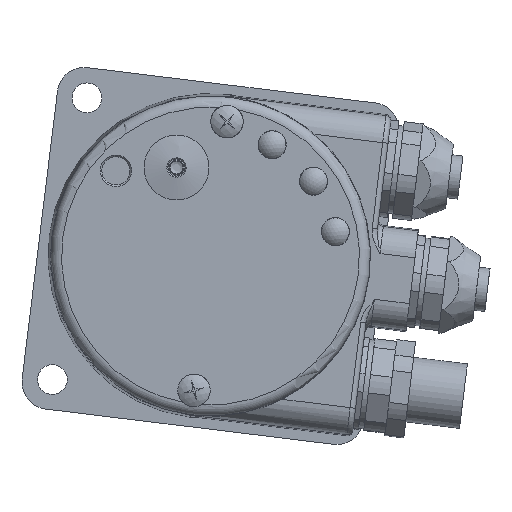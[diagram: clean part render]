
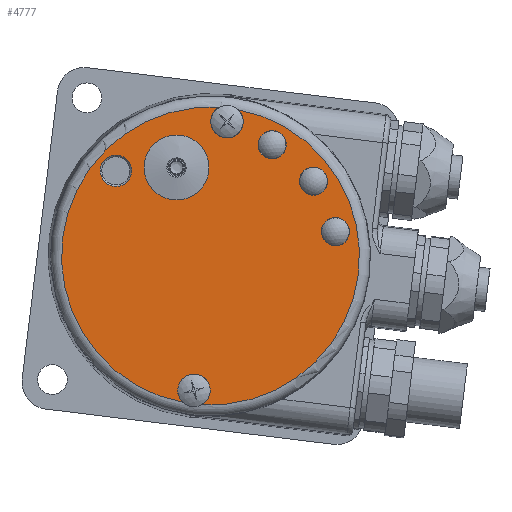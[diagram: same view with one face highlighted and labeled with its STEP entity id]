
A CAD part, left-side view. The second image highlights one B-rep face of the part: STEP entity #4777.
In plain terms, the highlighted planar face has unit normal (-1, 0, 0).
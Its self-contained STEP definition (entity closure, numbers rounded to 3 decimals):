
#257 = EDGE_LOOP ( 'NONE', ( #4259 ) ) ;
#407 = EDGE_CURVE ( 'NONE', #15092, #15092, #15657, .T. ) ;
#545 = DIRECTION ( 'NONE',  ( -1., 0., 0. ) ) ;
#767 = DIRECTION ( 'NONE',  ( -1., 0., 0. ) ) ;
#1265 = FACE_BOUND ( 'NONE', #6513, .T. ) ;
#1273 = ORIENTED_EDGE ( 'NONE', *, *, #9118, .T. ) ;
#1330 = CARTESIAN_POINT ( 'NONE',  ( -57., 17.464, 15.725 ) ) ;
#1619 = VERTEX_POINT ( 'NONE', #16320 ) ;
#1686 = FACE_BOUND ( 'NONE', #10390, .T. ) ;
#2107 = EDGE_CURVE ( 'NONE', #7338, #7338, #10660, .T. ) ;
#2162 = DIRECTION ( 'NONE',  ( -1., 0., 0. ) ) ;
#2200 = AXIS2_PLACEMENT_3D ( 'NONE', #4154, #13316, #5468 ) ;
#2458 = CARTESIAN_POINT ( 'NONE',  ( -57., -23.068, 4.484 ) ) ;
#2592 = EDGE_LOOP ( 'NONE', ( #1273 ) ) ;
#2650 = DIRECTION ( 'NONE',  ( 0., -0.122, 0.993 ) ) ;
#2849 = VERTEX_POINT ( 'NONE', #14945 ) ;
#3057 = AXIS2_PLACEMENT_3D ( 'NONE', #12906, #5060, #14220 ) ;
#3192 = AXIS2_PLACEMENT_3D ( 'NONE', #2458, #11578, #3751 ) ;
#3311 = VERTEX_POINT ( 'NONE', #9602 ) ;
#3332 = EDGE_CURVE ( 'NONE', #16387, #9711, #11807, .T. ) ;
#3694 = DIRECTION ( 'NONE',  ( -1., 0., 0. ) ) ;
#3701 = ORIENTED_EDGE ( 'NONE', *, *, #6916, .T. ) ;
#3751 = DIRECTION ( 'NONE',  ( 0., -0.122, 0.993 ) ) ;
#3923 = CIRCLE ( 'NONE', #3057, 2.6 ) ;
#4154 = CARTESIAN_POINT ( 'NONE',  ( -57., 0., 0. ) ) ;
#4173 = CARTESIAN_POINT ( 'NONE',  ( -57., -23.385, 7.065 ) ) ;
#4193 = CARTESIAN_POINT ( 'NONE',  ( -57., -1.638, 27.462 ) ) ;
#4259 = ORIENTED_EDGE ( 'NONE', *, *, #407, .F. ) ;
#4283 = CARTESIAN_POINT ( 'NONE',  ( -57., 5.54, 22.293 ) ) ;
#4340 = CIRCLE ( 'NONE', #9271, 2.6 ) ;
#4689 = AXIS2_PLACEMENT_3D ( 'NONE', #4766, #13930, #6068 ) ;
#4734 = FACE_OUTER_BOUND ( 'NONE', #6427, .T. ) ;
#4766 = CARTESIAN_POINT ( 'NONE',  ( -57., 0., 0. ) ) ;
#4777 = ADVANCED_FACE ( 'NONE', ( #8625, #11691, #1686, #8196, #4734, #1265 ), #6705, .T. ) ;
#4953 = ORIENTED_EDGE ( 'NONE', *, *, #16630, .T. ) ;
#5060 = DIRECTION ( 'NONE',  ( -1., 0., 0. ) ) ;
#5206 = DIRECTION ( 'NONE',  ( -1., 0., 0. ) ) ;
#5286 = CIRCLE ( 'NONE', #4689, 27.511 ) ;
#5288 = ORIENTED_EDGE ( 'NONE', *, *, #3332, .F. ) ;
#5468 = DIRECTION ( 'NONE',  ( 0., -0.122, 0.993 ) ) ;
#6068 = DIRECTION ( 'NONE',  ( 0., -0.122, 0.993 ) ) ;
#6427 = EDGE_LOOP ( 'NONE', ( #10236, #3701, #5288, #4953 ) ) ;
#6452 = CIRCLE ( 'NONE', #10807, 27.511 ) ;
#6513 = EDGE_LOOP ( 'NONE', ( #10531 ) ) ;
#6705 = PLANE ( 'NONE',  #2200 ) ;
#6916 = EDGE_CURVE ( 'NONE', #3311, #9711, #6452, .T. ) ;
#7338 = VERTEX_POINT ( 'NONE', #4283 ) ;
#7514 = CARTESIAN_POINT ( 'NONE',  ( -57., 5.055, -27.043 ) ) ;
#7627 = CIRCLE ( 'NONE', #10618, 2.9 ) ;
#8013 = EDGE_CURVE ( 'NONE', #3311, #10296, #10974, .T. ) ;
#8196 = FACE_BOUND ( 'NONE', #8464, .T. ) ;
#8254 = ORIENTED_EDGE ( 'NONE', *, *, #11151, .F. ) ;
#8341 = CARTESIAN_POINT ( 'NONE',  ( -57., -3.047, 24.814 ) ) ;
#8464 = EDGE_LOOP ( 'NONE', ( #8254 ) ) ;
#8568 = CARTESIAN_POINT ( 'NONE',  ( -57., 0., 0. ) ) ;
#8625 = FACE_BOUND ( 'NONE', #2592, .T. ) ;
#8900 = CARTESIAN_POINT ( 'NONE',  ( -57., -5.055, 27.043 ) ) ;
#9118 = EDGE_CURVE ( 'NONE', #2849, #2849, #7627, .T. ) ;
#9145 = VERTEX_POINT ( 'NONE', #12732 ) ;
#9271 = AXIS2_PLACEMENT_3D ( 'NONE', #13052, #5206, #14350 ) ;
#9602 = CARTESIAN_POINT ( 'NONE',  ( -57., 1.638, -27.462 ) ) ;
#9663 = DIRECTION ( 'NONE',  ( 0., -0.122, 0.993 ) ) ;
#9711 = VERTEX_POINT ( 'NONE', #8900 ) ;
#9878 = DIRECTION ( 'NONE',  ( 0., -0.122, 0.993 ) ) ;
#9948 = CARTESIAN_POINT ( 'NONE',  ( -57., 6.271, 16.338 ) ) ;
#10236 = ORIENTED_EDGE ( 'NONE', *, *, #8013, .F. ) ;
#10296 = VERTEX_POINT ( 'NONE', #7514 ) ;
#10390 = EDGE_LOOP ( 'NONE', ( #11177 ) ) ;
#10422 = AXIS2_PLACEMENT_3D ( 'NONE', #11516, #3694, #12831 ) ;
#10465 = DIRECTION ( 'NONE',  ( 1., 0., 0. ) ) ;
#10531 = ORIENTED_EDGE ( 'NONE', *, *, #2107, .F. ) ;
#10618 = AXIS2_PLACEMENT_3D ( 'NONE', #1330, #10465, #2650 ) ;
#10660 = CIRCLE ( 'NONE', #14504, 6. ) ;
#10807 = AXIS2_PLACEMENT_3D ( 'NONE', #8568, #767, #9878 ) ;
#10974 = CIRCLE ( 'NONE', #10422, 3. ) ;
#11151 = EDGE_CURVE ( 'NONE', #1619, #1619, #4340, .T. ) ;
#11177 = ORIENTED_EDGE ( 'NONE', *, *, #16237, .F. ) ;
#11269 = DIRECTION ( 'NONE',  ( 0., -0.122, 0.993 ) ) ;
#11516 = CARTESIAN_POINT ( 'NONE',  ( -57., 3.047, -24.814 ) ) ;
#11578 = DIRECTION ( 'NONE',  ( -1., 0., 0. ) ) ;
#11691 = FACE_BOUND ( 'NONE', #257, .T. ) ;
#11807 = CIRCLE ( 'NONE', #16611, 3. ) ;
#12732 = CARTESIAN_POINT ( 'NONE',  ( -57., -11.71, 23.134 ) ) ;
#12831 = DIRECTION ( 'NONE',  ( 0., -0.122, 0.993 ) ) ;
#12906 = CARTESIAN_POINT ( 'NONE',  ( -57., -11.393, 20.554 ) ) ;
#13052 = CARTESIAN_POINT ( 'NONE',  ( -57., -19.012, 13.813 ) ) ;
#13316 = DIRECTION ( 'NONE',  ( -1., 0., 0. ) ) ;
#13930 = DIRECTION ( 'NONE',  ( -1., 0., 0. ) ) ;
#14220 = DIRECTION ( 'NONE',  ( 0., -0.122, 0.993 ) ) ;
#14350 = DIRECTION ( 'NONE',  ( 0., -0.122, 0.993 ) ) ;
#14504 = AXIS2_PLACEMENT_3D ( 'NONE', #9948, #2162, #11269 ) ;
#14945 = CARTESIAN_POINT ( 'NONE',  ( -57., 17.11, 18.603 ) ) ;
#15092 = VERTEX_POINT ( 'NONE', #4173 ) ;
#15657 = CIRCLE ( 'NONE', #3192, 2.6 ) ;
#16237 = EDGE_CURVE ( 'NONE', #9145, #9145, #3923, .T. ) ;
#16320 = CARTESIAN_POINT ( 'NONE',  ( -57., -19.329, 16.394 ) ) ;
#16387 = VERTEX_POINT ( 'NONE', #4193 ) ;
#16611 = AXIS2_PLACEMENT_3D ( 'NONE', #8341, #545, #9663 ) ;
#16630 = EDGE_CURVE ( 'NONE', #16387, #10296, #5286, .T. ) ;
